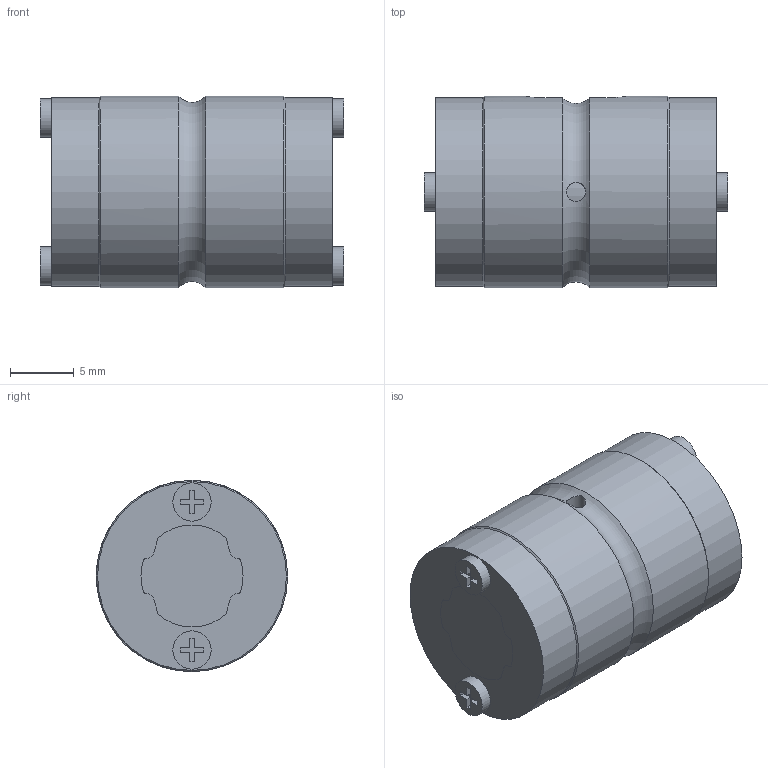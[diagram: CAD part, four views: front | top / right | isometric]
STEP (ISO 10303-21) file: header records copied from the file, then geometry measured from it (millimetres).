
FILE_DESCRIPTION(/* description */ ('STEP AP203'),/* implementation_level */ '2;1');
FILE_NAME(/* name */ 'LT8X+22L(00)',/* time_stamp */ '2024-05-28T07:07:17+02:00',/* author */ ('License CC BY-ND 4.0'),/* organization */ ('CADENAS'),/* preprocessor_version */ 'ST-DEVELOPER v19.3',/* originating_system */ 'PARTsolutions',/* authorisation */ ' ');
FILE_SCHEMA (('CONFIG_CONTROL_DESIGN'));
Length unit declared in the file: millimetre
Products named in the file (3): LT8X+22L(00); 1LT8X 22Shaft; 1LT8X Cylindar
Assembly tree (2 placements, depth 2):
  LT8X+22L(00)
    1LT8X 22Shaft
    1LT8X Cylindar
Bounding box: 23.8 x 15 x 15 mm (x, y, z)
Volume: 3814.4 mm3; surface area: 2607.4 mm2
Topology: 2 solids, 2 shells, 118 faces, 318 edges, 212 vertices
Faces by surface type: plane 71, cylinder 44, cone 2, torus 1
Full cylindrical faces by diameter (mm): 1.5 x2, 3 x4, 14.8 x2, 15 x2
Entity records: 3721 total; most frequent: CARTESIAN_POINT 687, DIRECTION 616, ORIENTED_EDGE 600, EDGE_CURVE 300, LINE 210, VECTOR 210, VERTEX_POINT 206, AXIS2_PLACEMENT_3D 203
